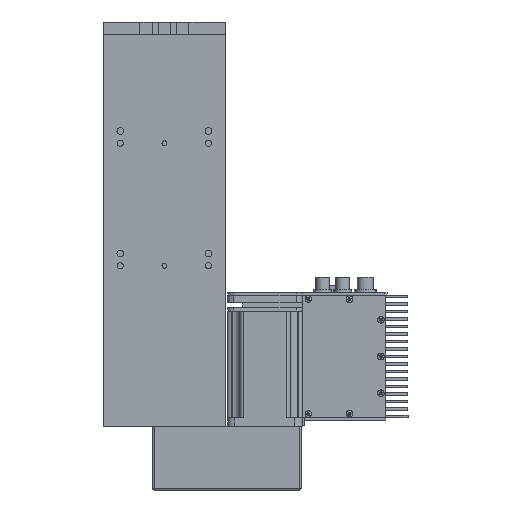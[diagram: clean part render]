
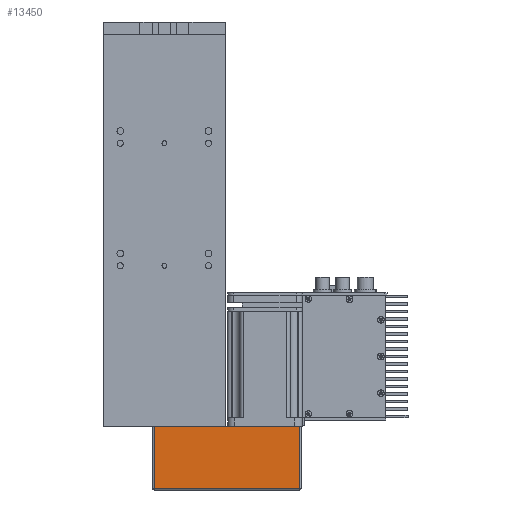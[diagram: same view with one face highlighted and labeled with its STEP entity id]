
A CAD part, front view. The second image highlights one B-rep face of the part: STEP entity #13450.
In plain terms, the highlighted planar face has unit normal (0, -1, 0) as drawn and (0, 1, 0) by its records, which use the part's own axes.
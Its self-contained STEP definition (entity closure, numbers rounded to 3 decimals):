
#13421 = ORIENTED_EDGE ( 'NONE', *, *, #19973, .T. ) ;
#13426 = ORIENTED_EDGE ( 'NONE', *, *, #22323, .T. ) ;
#13450 = ADVANCED_FACE ( 'NONE', ( #32156 ), #32166, .F. ) ;
#13461 = ORIENTED_EDGE ( 'NONE', *, *, #13697, .T. ) ;
#13464 = EDGE_LOOP ( 'NONE', ( #13426, #13461, #13421, #13490 ) ) ;
#13490 = ORIENTED_EDGE ( 'NONE', *, *, #27327, .T. ) ;
#13663 = VERTEX_POINT ( 'NONE', #32493 ) ;
#13686 = VERTEX_POINT ( 'NONE', #32526 ) ;
#13697 = EDGE_CURVE ( 'NONE', #13663, #13686, #32560, .T. ) ;
#19552 = VERTEX_POINT ( 'NONE', #32797 ) ;
#19947 = VERTEX_POINT ( 'NONE', #32825 ) ;
#19973 = EDGE_CURVE ( 'NONE', #13686, #19552, #32822, .T. ) ;
#22323 = EDGE_CURVE ( 'NONE', #19947, #13663, #32841, .T. ) ;
#27327 = EDGE_CURVE ( 'NONE', #19552, #19947, #33008, .T. ) ;
#32156 = FACE_OUTER_BOUND ( 'NONE', #13464, .T. ) ;
#32158 = CARTESIAN_POINT ( 'NONE',  ( 0., 62.75, 50. ) ) ;
#32166 = PLANE ( 'NONE',  #32218 ) ;
#32208 = DIRECTION ( 'NONE',  ( 0., 0., -1. ) ) ;
#32209 = DIRECTION ( 'NONE',  ( 0., -1., 0. ) ) ;
#32218 = AXIS2_PLACEMENT_3D ( 'NONE', #32158, #32209, #32208 ) ;
#32493 = CARTESIAN_POINT ( 'NONE',  ( 0., 62.75, 50. ) ) ;
#32526 = CARTESIAN_POINT ( 'NONE',  ( 119., 62.75, 50. ) ) ;
#32557 = DIRECTION ( 'NONE',  ( 1., 0., 0. ) ) ;
#32558 = VECTOR ( 'NONE', #32557, 1000. ) ;
#32559 = CARTESIAN_POINT ( 'NONE',  ( 0., 62.75, 50. ) ) ;
#32560 = LINE ( 'NONE', #32559, #32558 ) ;
#32797 = CARTESIAN_POINT ( 'NONE',  ( 119., 62.75, -1. ) ) ;
#32816 = DIRECTION ( 'NONE',  ( 0., 0., -1. ) ) ;
#32817 = VECTOR ( 'NONE', #32816, 1000. ) ;
#32818 = CARTESIAN_POINT ( 'NONE',  ( 119., 62.75, 50. ) ) ;
#32822 = LINE ( 'NONE', #32818, #32817 ) ;
#32825 = CARTESIAN_POINT ( 'NONE',  ( 0., 62.75, -1. ) ) ;
#32841 = LINE ( 'NONE', #32845, #32898 ) ;
#32845 = CARTESIAN_POINT ( 'NONE',  ( 0., 62.75, 50. ) ) ;
#32897 = DIRECTION ( 'NONE',  ( 0., 0., 1. ) ) ;
#32898 = VECTOR ( 'NONE', #32897, 1000. ) ;
#33008 = LINE ( 'NONE', #33054, #33053 ) ;
#33052 = DIRECTION ( 'NONE',  ( -1., 0., 0. ) ) ;
#33053 = VECTOR ( 'NONE', #33052, 1000. ) ;
#33054 = CARTESIAN_POINT ( 'NONE',  ( 0., 62.75, -1. ) ) ;
